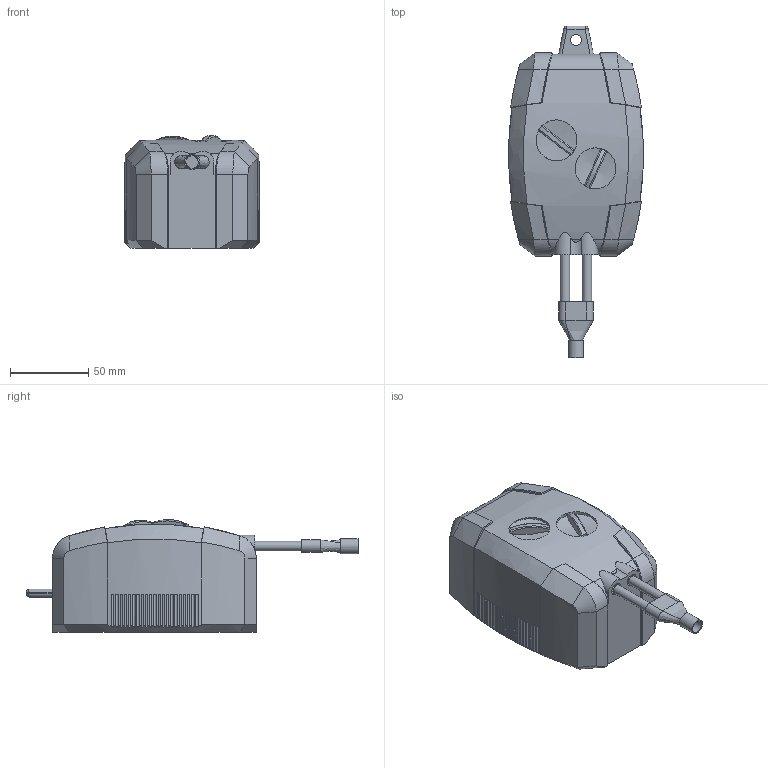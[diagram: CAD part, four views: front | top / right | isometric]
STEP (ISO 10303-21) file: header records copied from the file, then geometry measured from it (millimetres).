
FILE_DESCRIPTION(/* description */ ('STEP AP214'),/* implementation_level */ '2;1');
FILE_NAME(/* name */ 'C:\Users\user\Documents\Inventor\Home Ventilator CPAP\air pump aquarium.stp',/* time_stamp */ '2020-03-29T22:36:56+02:00',/* author */ ('user'),/* organization */ (''),/* preprocessor_version */ 'ST-DEVELOPER v16.5',/* originating_system */ 'Autodesk Inventor 2017',/* authorisation */ '');
FILE_SCHEMA (('AUTOMOTIVE_DESIGN { 1 0 10303 214 3 1 1 }'));
Length unit declared in the file: millimetre
Products named in the file (1): air pump aquarium
Bounding box: 86 x 212 x 71.84 mm (x, y, z)
Volume: 660683.2 mm3; surface area: 49619 mm2
Topology: 3 solids, 6 shells, 270 faces, 684 edges, 431 vertices
Faces by surface type: plane 100, cylinder 94, bspline 66, torus 4, sphere 4, cone 2
Full cylindrical faces by diameter (mm): 4.4 x2, 6 x2, 7 x1, 8 x3, 9.6 x1
Entity records: 14871 total; most frequent: CARTESIAN_POINT 8666, ORIENTED_EDGE 1340, DIRECTION 1138, EDGE_CURVE 670, VERTEX_POINT 430, AXIS2_PLACEMENT_3D 428, EDGE_LOOP 292, LINE 282
